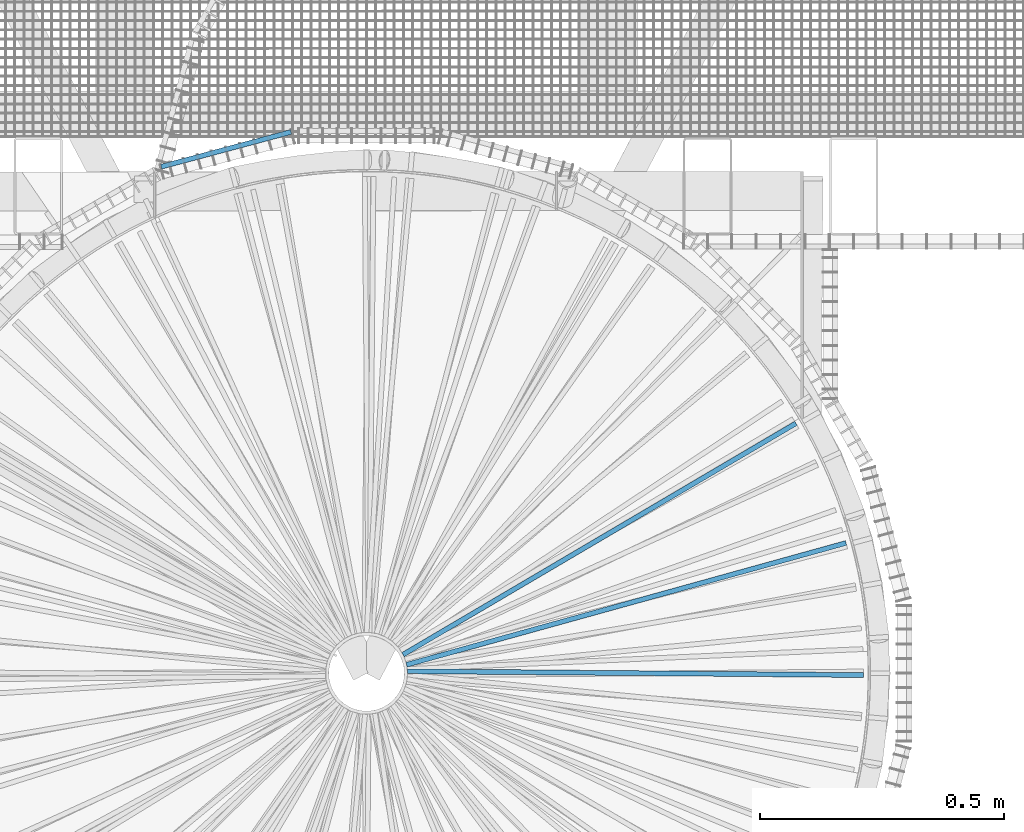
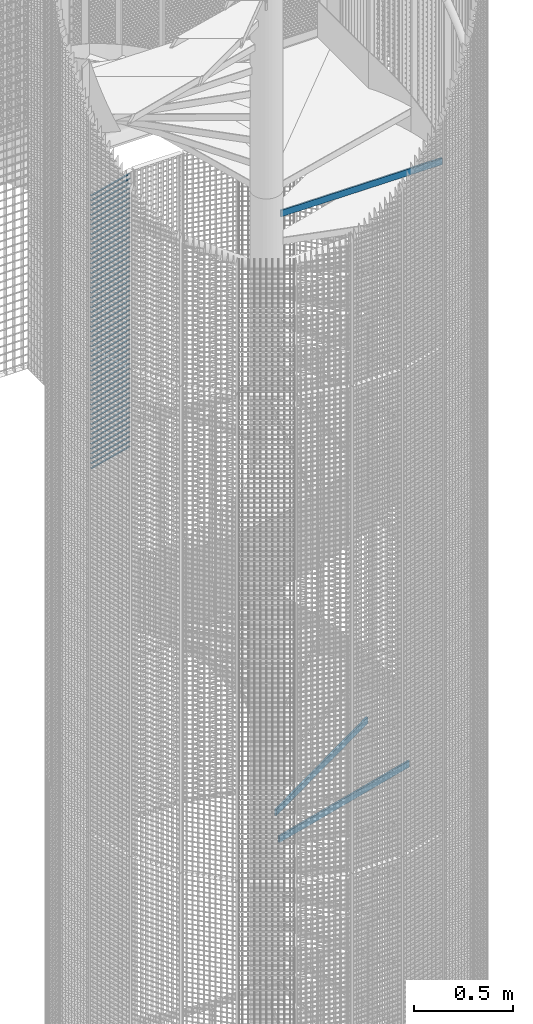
# One storey, part 303 of 1148: 60 beams, 2 elements without a shape of their own.
"""IFC2X3 building model written with IfcOpenShell, lengths in millimetres."""

from ifc_helpers import new_model, si_unit, frame, origin_with_axes, origin_2d_with_axis, place, context, subcontext, project, spatial, rectangle, extrude, material, type_object, element, aggregate, save


model = new_model("IFC2X3")

# Units and contexts
model_context = context("Model", 3, precision=1e-05, world=origin_with_axes())
body_context = subcontext(model_context, "Body", "Model", "MODEL_VIEW")
ifc_project = project(units=[si_unit("LENGTHUNIT", "METRE", prefix="MILLI"), si_unit("AREAUNIT", "SQUARE_METRE"), si_unit("VOLUMEUNIT", "CUBIC_METRE"), si_unit("MASSUNIT", "GRAM", prefix="KILO"), si_unit("TIMEUNIT", "SECOND"), si_unit("PLANEANGLEUNIT", "RADIAN"), si_unit("SOLIDANGLEUNIT", "STERADIAN"), si_unit("THERMODYNAMICTEMPERATUREUNIT", "DEGREE_CELSIUS"), si_unit("LUMINOUSINTENSITYUNIT", "LUMEN")], contexts=[model_context])

# Site, building, storey
site_placement = place(None, origin_with_axes())
site = spatial("IfcSite", under=ifc_project, at=site_placement, Name="Undefined", CompositionType="ELEMENT")
building_placement = place(site_placement, origin_with_axes())
building = spatial("IfcBuilding", under=site, at=building_placement, Name="Undefined", CompositionType="ELEMENT")
storey_placement = place(building_placement, origin_with_axes())
storey = spatial("IfcBuildingStorey", under=building, at=storey_placement, Name="Undefined", CompositionType="ELEMENT", Elevation=0.0)

# Assembly, beams
assembly_1_placement = place(storey_placement, origin_with_axes())
assembly_1 = element("IfcElementAssembly", 1, at=assembly_1_placement, inside=storey, Name="BORDURE", AssemblyPlace="NOTDEFINED", PredefinedType="NOTDEFINED")
ifc_material = material(Name="STEEL/S235JR")
beam_type_1 = type_object("IfcBeamType", Name="PL2*10", PredefinedType="NOTDEFINED")
beam_1_placement = place(assembly_1_placement, frame((-154.895926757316, 1111.25508286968, 5970.0), z_axis=(-0.258819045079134, 0.965925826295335, 0.0), x_axis=(-0.965925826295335, -0.258819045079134, 0.0)))
beam_1 = element("IfcBeam", 2, at=beam_1_placement, type_object=beam_type_1, material=ifc_material, Name="ENTRETOISE", context=body_context, shape_type="SweptSolid", body=[
    extrude(rectangle(XDim=2.0, YDim=10.0, at=origin_2d_with_axis()), frame((275.999999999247, 9.09494701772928e-13, 1.53210777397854e-14), z_axis=(-1.0, 0.0, 0.0), x_axis=(0.0, -1.0, 0.0)), (0.0, 0.0, 1.0), 276.0),
])
beam_2_placement = place(assembly_1_placement, frame((-154.895926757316, 1111.25508286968, 5940.0), z_axis=(-0.258819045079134, 0.965925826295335, 0.0), x_axis=(-0.965925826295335, -0.258819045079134, 0.0)))
beam_2 = element("IfcBeam", 3, at=beam_2_placement, type_object=beam_type_1, material=ifc_material, Name="ENTRETOISE", context=body_context, shape_type="SweptSolid", body=[
    extrude(rectangle(XDim=2.0, YDim=10.0, at=origin_2d_with_axis()), frame((275.999999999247, 9.09494701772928e-13, 1.53210777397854e-14), z_axis=(-1.0, 0.0, 0.0), x_axis=(0.0, -1.0, 0.0)), (0.0, 0.0, 1.0), 276.0),
])
beam_3_placement = place(assembly_1_placement, frame((-154.895926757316, 1111.25508286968, 5910.0), z_axis=(-0.258819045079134, 0.965925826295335, 0.0), x_axis=(-0.965925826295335, -0.258819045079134, 0.0)))
beam_3 = element("IfcBeam", 4, at=beam_3_placement, type_object=beam_type_1, material=ifc_material, Name="ENTRETOISE", context=body_context, shape_type="SweptSolid", body=[
    extrude(rectangle(XDim=2.0, YDim=10.0, at=origin_2d_with_axis()), frame((275.999999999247, 9.09494701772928e-13, 1.53210777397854e-14), z_axis=(-1.0, 0.0, 0.0), x_axis=(0.0, -1.0, 0.0)), (0.0, 0.0, 1.0), 276.0),
])
beam_4_placement = place(assembly_1_placement, frame((-154.895926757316, 1111.25508286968, 5880.0), z_axis=(-0.258819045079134, 0.965925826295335, 0.0), x_axis=(-0.965925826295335, -0.258819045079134, 0.0)))
beam_4 = element("IfcBeam", 5, at=beam_4_placement, type_object=beam_type_1, material=ifc_material, Name="ENTRETOISE", context=body_context, shape_type="SweptSolid", body=[
    extrude(rectangle(XDim=2.0, YDim=10.0, at=origin_2d_with_axis()), frame((275.999999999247, 9.09494701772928e-13, 1.53210777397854e-14), z_axis=(-1.0, 0.0, 0.0), x_axis=(0.0, -1.0, 0.0)), (0.0, 0.0, 1.0), 276.0),
])
beam_5_placement = place(assembly_1_placement, frame((-154.895926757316, 1111.25508286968, 5850.0), z_axis=(-0.258819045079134, 0.965925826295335, 0.0), x_axis=(-0.965925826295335, -0.258819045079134, 0.0)))
beam_5 = element("IfcBeam", 6, at=beam_5_placement, type_object=beam_type_1, material=ifc_material, Name="ENTRETOISE", context=body_context, shape_type="SweptSolid", body=[
    extrude(rectangle(XDim=2.0, YDim=10.0, at=origin_2d_with_axis()), frame((275.999999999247, 9.09494701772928e-13, 1.53210777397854e-14), z_axis=(-1.0, 0.0, 0.0), x_axis=(0.0, -1.0, 0.0)), (0.0, 0.0, 1.0), 276.0),
])
beam_6_placement = place(assembly_1_placement, frame((-154.895926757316, 1111.25508286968, 5820.0), z_axis=(-0.258819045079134, 0.965925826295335, 0.0), x_axis=(-0.965925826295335, -0.258819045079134, 0.0)))
beam_6 = element("IfcBeam", 7, at=beam_6_placement, type_object=beam_type_1, material=ifc_material, Name="ENTRETOISE", context=body_context, shape_type="SweptSolid", body=[
    extrude(rectangle(XDim=2.0, YDim=10.0, at=origin_2d_with_axis()), frame((275.999999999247, 9.09494701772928e-13, 1.53210777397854e-14), z_axis=(-1.0, 0.0, 0.0), x_axis=(0.0, -1.0, 0.0)), (0.0, 0.0, 1.0), 276.0),
])
beam_7_placement = place(assembly_1_placement, frame((-154.895926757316, 1111.25508286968, 5790.0), z_axis=(-0.258819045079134, 0.965925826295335, 0.0), x_axis=(-0.965925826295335, -0.258819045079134, 0.0)))
beam_7 = element("IfcBeam", 8, at=beam_7_placement, type_object=beam_type_1, material=ifc_material, Name="ENTRETOISE", context=body_context, shape_type="SweptSolid", body=[
    extrude(rectangle(XDim=2.0, YDim=10.0, at=origin_2d_with_axis()), frame((275.999999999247, 9.09494701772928e-13, 1.53210777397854e-14), z_axis=(-1.0, 0.0, 0.0), x_axis=(0.0, -1.0, 0.0)), (0.0, 0.0, 1.0), 276.0),
])
beam_8_placement = place(assembly_1_placement, frame((-154.895926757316, 1111.25508286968, 5760.0), z_axis=(-0.258819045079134, 0.965925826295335, 0.0), x_axis=(-0.965925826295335, -0.258819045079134, 0.0)))
beam_8 = element("IfcBeam", 9, at=beam_8_placement, type_object=beam_type_1, material=ifc_material, Name="ENTRETOISE", context=body_context, shape_type="SweptSolid", body=[
    extrude(rectangle(XDim=2.0, YDim=10.0, at=origin_2d_with_axis()), frame((275.999999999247, 9.09494701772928e-13, 1.53210777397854e-14), z_axis=(-1.0, 0.0, 0.0), x_axis=(0.0, -1.0, 0.0)), (0.0, 0.0, 1.0), 276.0),
])
beam_9_placement = place(assembly_1_placement, frame((-154.895926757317, 1111.25508286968, 5730.0), z_axis=(-0.258819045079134, 0.965925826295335, 0.0), x_axis=(-0.965925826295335, -0.258819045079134, 0.0)))
beam_9 = element("IfcBeam", 10, at=beam_9_placement, type_object=beam_type_1, material=ifc_material, Name="ENTRETOISE", context=body_context, shape_type="SweptSolid", body=[
    extrude(rectangle(XDim=2.0, YDim=10.0, at=origin_2d_with_axis()), frame((275.999999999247, 9.09494701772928e-13, 1.53210777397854e-14), z_axis=(-1.0, 0.0, 0.0), x_axis=(0.0, -1.0, 0.0)), (0.0, 0.0, 1.0), 276.0),
])
beam_10_placement = place(assembly_1_placement, frame((-154.895926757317, 1111.25508286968, 5700.0), z_axis=(-0.258819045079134, 0.965925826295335, 0.0), x_axis=(-0.965925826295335, -0.258819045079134, 0.0)))
beam_10 = element("IfcBeam", 11, at=beam_10_placement, type_object=beam_type_1, material=ifc_material, Name="ENTRETOISE", context=body_context, shape_type="SweptSolid", body=[
    extrude(rectangle(XDim=2.0, YDim=10.0, at=origin_2d_with_axis()), frame((275.999999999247, 9.09494701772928e-13, 1.53210777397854e-14), z_axis=(-1.0, 0.0, 0.0), x_axis=(0.0, -1.0, 0.0)), (0.0, 0.0, 1.0), 276.0),
])
beam_11_placement = place(assembly_1_placement, frame((-154.895926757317, 1111.25508286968, 5670.0), z_axis=(-0.258819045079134, 0.965925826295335, 0.0), x_axis=(-0.965925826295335, -0.258819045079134, 0.0)))
beam_11 = element("IfcBeam", 12, at=beam_11_placement, type_object=beam_type_1, material=ifc_material, Name="ENTRETOISE", context=body_context, shape_type="SweptSolid", body=[
    extrude(rectangle(XDim=2.0, YDim=10.0, at=origin_2d_with_axis()), frame((275.999999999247, 9.09494701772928e-13, 1.53210777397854e-14), z_axis=(-1.0, 0.0, 0.0), x_axis=(0.0, -1.0, 0.0)), (0.0, 0.0, 1.0), 276.0),
])
beam_12_placement = place(assembly_1_placement, frame((-154.895926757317, 1111.25508286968, 5640.0), z_axis=(-0.258819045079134, 0.965925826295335, 0.0), x_axis=(-0.965925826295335, -0.258819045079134, 0.0)))
beam_12 = element("IfcBeam", 13, at=beam_12_placement, type_object=beam_type_1, material=ifc_material, Name="ENTRETOISE", context=body_context, shape_type="SweptSolid", body=[
    extrude(rectangle(XDim=2.0, YDim=10.0, at=origin_2d_with_axis()), frame((275.999999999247, 9.09494701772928e-13, 1.53210777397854e-14), z_axis=(-1.0, 0.0, 0.0), x_axis=(0.0, -1.0, 0.0)), (0.0, 0.0, 1.0), 276.0),
])
beam_13_placement = place(assembly_1_placement, frame((-154.895926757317, 1111.25508286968, 5610.0), z_axis=(-0.258819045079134, 0.965925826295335, 0.0), x_axis=(-0.965925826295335, -0.258819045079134, 0.0)))
beam_13 = element("IfcBeam", 14, at=beam_13_placement, type_object=beam_type_1, material=ifc_material, Name="ENTRETOISE", context=body_context, shape_type="SweptSolid", body=[
    extrude(rectangle(XDim=2.0, YDim=10.0, at=origin_2d_with_axis()), frame((275.999999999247, 9.09494701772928e-13, 1.53210777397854e-14), z_axis=(-1.0, 0.0, 0.0), x_axis=(0.0, -1.0, 0.0)), (0.0, 0.0, 1.0), 276.0),
])
beam_14_placement = place(assembly_1_placement, frame((-154.895926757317, 1111.25508286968, 5580.0), z_axis=(-0.258819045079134, 0.965925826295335, 0.0), x_axis=(-0.965925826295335, -0.258819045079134, 0.0)))
beam_14 = element("IfcBeam", 15, at=beam_14_placement, type_object=beam_type_1, material=ifc_material, Name="ENTRETOISE", context=body_context, shape_type="SweptSolid", body=[
    extrude(rectangle(XDim=2.0, YDim=10.0, at=origin_2d_with_axis()), frame((275.999999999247, 9.09494701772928e-13, 1.53210777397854e-14), z_axis=(-1.0, 0.0, 0.0), x_axis=(0.0, -1.0, 0.0)), (0.0, 0.0, 1.0), 276.0),
])
beam_15_placement = place(assembly_1_placement, frame((-154.895926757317, 1111.25508286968, 5550.0), z_axis=(-0.258819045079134, 0.965925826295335, 0.0), x_axis=(-0.965925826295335, -0.258819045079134, 0.0)))
beam_15 = element("IfcBeam", 16, at=beam_15_placement, type_object=beam_type_1, material=ifc_material, Name="ENTRETOISE", context=body_context, shape_type="SweptSolid", body=[
    extrude(rectangle(XDim=2.0, YDim=10.0, at=origin_2d_with_axis()), frame((275.999999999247, 9.09494701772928e-13, 1.53210777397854e-14), z_axis=(-1.0, 0.0, 0.0), x_axis=(0.0, -1.0, 0.0)), (0.0, 0.0, 1.0), 276.0),
])
beam_16_placement = place(assembly_1_placement, frame((-154.895926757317, 1111.25508286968, 5520.0), z_axis=(-0.258819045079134, 0.965925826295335, 0.0), x_axis=(-0.965925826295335, -0.258819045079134, 0.0)))
beam_16 = element("IfcBeam", 17, at=beam_16_placement, type_object=beam_type_1, material=ifc_material, Name="ENTRETOISE", context=body_context, shape_type="SweptSolid", body=[
    extrude(rectangle(XDim=2.0, YDim=10.0, at=origin_2d_with_axis()), frame((275.999999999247, 9.09494701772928e-13, 1.53210777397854e-14), z_axis=(-1.0, 0.0, 0.0), x_axis=(0.0, -1.0, 0.0)), (0.0, 0.0, 1.0), 276.0),
])
beam_17_placement = place(assembly_1_placement, frame((-154.895926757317, 1111.25508286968, 5490.0), z_axis=(-0.258819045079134, 0.965925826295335, 0.0), x_axis=(-0.965925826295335, -0.258819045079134, 0.0)))
beam_17 = element("IfcBeam", 18, at=beam_17_placement, type_object=beam_type_1, material=ifc_material, Name="ENTRETOISE", context=body_context, shape_type="SweptSolid", body=[
    extrude(rectangle(XDim=2.0, YDim=10.0, at=origin_2d_with_axis()), frame((275.999999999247, 9.09494701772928e-13, 1.53210777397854e-14), z_axis=(-1.0, 0.0, 0.0), x_axis=(0.0, -1.0, 0.0)), (0.0, 0.0, 1.0), 276.0),
])
beam_18_placement = place(assembly_1_placement, frame((-154.895926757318, 1111.25508286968, 5460.0), z_axis=(-0.258819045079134, 0.965925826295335, 0.0), x_axis=(-0.965925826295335, -0.258819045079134, 0.0)))
beam_18 = element("IfcBeam", 19, at=beam_18_placement, type_object=beam_type_1, material=ifc_material, Name="ENTRETOISE", context=body_context, shape_type="SweptSolid", body=[
    extrude(rectangle(XDim=2.0, YDim=10.0, at=origin_2d_with_axis()), frame((275.999999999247, 9.09494701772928e-13, 1.53210777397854e-14), z_axis=(-1.0, 0.0, 0.0), x_axis=(0.0, -1.0, 0.0)), (0.0, 0.0, 1.0), 276.0),
])
beam_19_placement = place(assembly_1_placement, frame((-154.895926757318, 1111.25508286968, 5430.0), z_axis=(-0.258819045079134, 0.965925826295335, 0.0), x_axis=(-0.965925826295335, -0.258819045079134, 0.0)))
beam_19 = element("IfcBeam", 20, at=beam_19_placement, type_object=beam_type_1, material=ifc_material, Name="ENTRETOISE", context=body_context, shape_type="SweptSolid", body=[
    extrude(rectangle(XDim=2.0, YDim=10.0, at=origin_2d_with_axis()), frame((275.999999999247, 9.09494701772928e-13, 1.53210777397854e-14), z_axis=(-1.0, 0.0, 0.0), x_axis=(0.0, -1.0, 0.0)), (0.0, 0.0, 1.0), 276.0),
])
beam_20_placement = place(assembly_1_placement, frame((-154.895926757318, 1111.25508286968, 5400.0), z_axis=(-0.258819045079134, 0.965925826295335, 0.0), x_axis=(-0.965925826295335, -0.258819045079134, 0.0)))
beam_20 = element("IfcBeam", 21, at=beam_20_placement, type_object=beam_type_1, material=ifc_material, Name="ENTRETOISE", context=body_context, shape_type="SweptSolid", body=[
    extrude(rectangle(XDim=2.0, YDim=10.0, at=origin_2d_with_axis()), frame((275.999999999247, 9.09494701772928e-13, 1.53210777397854e-14), z_axis=(-1.0, 0.0, 0.0), x_axis=(0.0, -1.0, 0.0)), (0.0, 0.0, 1.0), 276.0),
])
beam_21_placement = place(assembly_1_placement, frame((-154.895926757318, 1111.25508286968, 5370.0), z_axis=(-0.258819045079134, 0.965925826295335, 0.0), x_axis=(-0.965925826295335, -0.258819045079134, 0.0)))
beam_21 = element("IfcBeam", 22, at=beam_21_placement, type_object=beam_type_1, material=ifc_material, Name="ENTRETOISE", context=body_context, shape_type="SweptSolid", body=[
    extrude(rectangle(XDim=2.0, YDim=10.0, at=origin_2d_with_axis()), frame((275.999999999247, 9.09494701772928e-13, 1.53210777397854e-14), z_axis=(-1.0, 0.0, 0.0), x_axis=(0.0, -1.0, 0.0)), (0.0, 0.0, 1.0), 276.0),
])
beam_22_placement = place(assembly_1_placement, frame((-154.895926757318, 1111.25508286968, 5340.0), z_axis=(-0.258819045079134, 0.965925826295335, 0.0), x_axis=(-0.965925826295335, -0.258819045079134, 0.0)))
beam_22 = element("IfcBeam", 23, at=beam_22_placement, type_object=beam_type_1, material=ifc_material, Name="ENTRETOISE", context=body_context, shape_type="SweptSolid", body=[
    extrude(rectangle(XDim=2.0, YDim=10.0, at=origin_2d_with_axis()), frame((275.999999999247, 9.09494701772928e-13, 1.53210777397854e-14), z_axis=(-1.0, 0.0, 0.0), x_axis=(0.0, -1.0, 0.0)), (0.0, 0.0, 1.0), 276.0),
])
beam_23_placement = place(assembly_1_placement, frame((-154.895926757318, 1111.25508286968, 5310.0), z_axis=(-0.258819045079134, 0.965925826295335, 0.0), x_axis=(-0.965925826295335, -0.258819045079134, 0.0)))
beam_23 = element("IfcBeam", 24, at=beam_23_placement, type_object=beam_type_1, material=ifc_material, Name="ENTRETOISE", context=body_context, shape_type="SweptSolid", body=[
    extrude(rectangle(XDim=2.0, YDim=10.0, at=origin_2d_with_axis()), frame((275.999999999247, 9.09494701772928e-13, 1.53210777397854e-14), z_axis=(-1.0, 0.0, 0.0), x_axis=(0.0, -1.0, 0.0)), (0.0, 0.0, 1.0), 276.0),
])
beam_24_placement = place(assembly_1_placement, frame((-154.895926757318, 1111.25508286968, 5280.0), z_axis=(-0.258819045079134, 0.965925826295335, 0.0), x_axis=(-0.965925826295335, -0.258819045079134, 0.0)))
beam_24 = element("IfcBeam", 25, at=beam_24_placement, type_object=beam_type_1, material=ifc_material, Name="ENTRETOISE", context=body_context, shape_type="SweptSolid", body=[
    extrude(rectangle(XDim=2.0, YDim=10.0, at=origin_2d_with_axis()), frame((275.999999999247, 9.09494701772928e-13, 1.53210777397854e-14), z_axis=(-1.0, 0.0, 0.0), x_axis=(0.0, -1.0, 0.0)), (0.0, 0.0, 1.0), 276.0),
])
beam_25_placement = place(assembly_1_placement, frame((-154.895926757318, 1111.25508286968, 5250.0), z_axis=(-0.258819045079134, 0.965925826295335, 0.0), x_axis=(-0.965925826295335, -0.258819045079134, 0.0)))
beam_25 = element("IfcBeam", 26, at=beam_25_placement, type_object=beam_type_1, material=ifc_material, Name="ENTRETOISE", context=body_context, shape_type="SweptSolid", body=[
    extrude(rectangle(XDim=2.0, YDim=10.0, at=origin_2d_with_axis()), frame((275.999999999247, 9.09494701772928e-13, 1.53210777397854e-14), z_axis=(-1.0, 0.0, 0.0), x_axis=(0.0, -1.0, 0.0)), (0.0, 0.0, 1.0), 276.0),
])
beam_26_placement = place(assembly_1_placement, frame((-154.895926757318, 1111.25508286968, 5220.0), z_axis=(-0.258819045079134, 0.965925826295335, 0.0), x_axis=(-0.965925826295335, -0.258819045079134, 0.0)))
beam_26 = element("IfcBeam", 27, at=beam_26_placement, type_object=beam_type_1, material=ifc_material, Name="ENTRETOISE", context=body_context, shape_type="SweptSolid", body=[
    extrude(rectangle(XDim=2.0, YDim=10.0, at=origin_2d_with_axis()), frame((275.999999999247, 9.09494701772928e-13, 1.53210777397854e-14), z_axis=(-1.0, 0.0, 0.0), x_axis=(0.0, -1.0, 0.0)), (0.0, 0.0, 1.0), 276.0),
])
beam_27_placement = place(assembly_1_placement, frame((-154.895926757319, 1111.25508286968, 5190.0), z_axis=(-0.258819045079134, 0.965925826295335, 0.0), x_axis=(-0.965925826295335, -0.258819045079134, 0.0)))
beam_27 = element("IfcBeam", 28, at=beam_27_placement, type_object=beam_type_1, material=ifc_material, Name="ENTRETOISE", context=body_context, shape_type="SweptSolid", body=[
    extrude(rectangle(XDim=2.0, YDim=10.0, at=origin_2d_with_axis()), frame((275.999999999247, 9.09494701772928e-13, 1.53210777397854e-14), z_axis=(-1.0, 0.0, 0.0), x_axis=(0.0, -1.0, 0.0)), (0.0, 0.0, 1.0), 276.0),
])
beam_28_placement = place(assembly_1_placement, frame((-154.895926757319, 1111.25508286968, 5160.0), z_axis=(-0.258819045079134, 0.965925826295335, 0.0), x_axis=(-0.965925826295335, -0.258819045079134, 0.0)))
beam_28 = element("IfcBeam", 29, at=beam_28_placement, type_object=beam_type_1, material=ifc_material, Name="ENTRETOISE", context=body_context, shape_type="SweptSolid", body=[
    extrude(rectangle(XDim=2.0, YDim=10.0, at=origin_2d_with_axis()), frame((275.999999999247, 9.09494701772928e-13, 1.53210777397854e-14), z_axis=(-1.0, 0.0, 0.0), x_axis=(0.0, -1.0, 0.0)), (0.0, 0.0, 1.0), 276.0),
])
beam_29_placement = place(assembly_1_placement, frame((-154.895926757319, 1111.25508286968, 5130.0), z_axis=(-0.258819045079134, 0.965925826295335, 0.0), x_axis=(-0.965925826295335, -0.258819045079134, 0.0)))
beam_29 = element("IfcBeam", 30, at=beam_29_placement, type_object=beam_type_1, material=ifc_material, Name="ENTRETOISE", context=body_context, shape_type="SweptSolid", body=[
    extrude(rectangle(XDim=2.0, YDim=10.0, at=origin_2d_with_axis()), frame((275.999999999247, 9.09494701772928e-13, 1.53210777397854e-14), z_axis=(-1.0, 0.0, 0.0), x_axis=(0.0, -1.0, 0.0)), (0.0, 0.0, 1.0), 276.0),
])
beam_30_placement = place(assembly_1_placement, frame((-154.895926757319, 1111.25508286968, 5100.0), z_axis=(-0.258819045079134, 0.965925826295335, 0.0), x_axis=(-0.965925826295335, -0.258819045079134, 0.0)))
beam_30 = element("IfcBeam", 31, at=beam_30_placement, type_object=beam_type_1, material=ifc_material, Name="ENTRETOISE", context=body_context, shape_type="SweptSolid", body=[
    extrude(rectangle(XDim=2.0, YDim=10.0, at=origin_2d_with_axis()), frame((275.999999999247, 9.09494701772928e-13, 1.53210777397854e-14), z_axis=(-1.0, 0.0, 0.0), x_axis=(0.0, -1.0, 0.0)), (0.0, 0.0, 1.0), 276.0),
])
beam_31_placement = place(assembly_1_placement, frame((-154.895926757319, 1111.25508286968, 5070.0), z_axis=(-0.258819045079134, 0.965925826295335, 0.0), x_axis=(-0.965925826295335, -0.258819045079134, 0.0)))
beam_31 = element("IfcBeam", 32, at=beam_31_placement, type_object=beam_type_1, material=ifc_material, Name="ENTRETOISE", context=body_context, shape_type="SweptSolid", body=[
    extrude(rectangle(XDim=2.0, YDim=10.0, at=origin_2d_with_axis()), frame((275.999999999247, 9.09494701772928e-13, 1.53210777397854e-14), z_axis=(-1.0, 0.0, 0.0), x_axis=(0.0, -1.0, 0.0)), (0.0, 0.0, 1.0), 276.0),
])
beam_32_placement = place(assembly_1_placement, frame((-154.895926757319, 1111.25508286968, 5040.0), z_axis=(-0.258819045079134, 0.965925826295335, 0.0), x_axis=(-0.965925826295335, -0.258819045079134, 0.0)))
beam_32 = element("IfcBeam", 33, at=beam_32_placement, type_object=beam_type_1, material=ifc_material, Name="ENTRETOISE", context=body_context, shape_type="SweptSolid", body=[
    extrude(rectangle(XDim=2.0, YDim=10.0, at=origin_2d_with_axis()), frame((275.999999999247, 9.09494701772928e-13, 1.53210777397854e-14), z_axis=(-1.0, 0.0, 0.0), x_axis=(0.0, -1.0, 0.0)), (0.0, 0.0, 1.0), 276.0),
])
beam_33_placement = place(assembly_1_placement, frame((-154.895926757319, 1111.25508286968, 5010.0), z_axis=(-0.258819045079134, 0.965925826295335, 0.0), x_axis=(-0.965925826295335, -0.258819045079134, 0.0)))
beam_33 = element("IfcBeam", 34, at=beam_33_placement, type_object=beam_type_1, material=ifc_material, Name="ENTRETOISE", context=body_context, shape_type="SweptSolid", body=[
    extrude(rectangle(XDim=2.0, YDim=10.0, at=origin_2d_with_axis()), frame((275.999999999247, 9.09494701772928e-13, 1.53210777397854e-14), z_axis=(-1.0, 0.0, 0.0), x_axis=(0.0, -1.0, 0.0)), (0.0, 0.0, 1.0), 276.0),
])
beam_34_placement = place(assembly_1_placement, frame((-154.895926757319, 1111.25508286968, 4980.0), z_axis=(-0.258819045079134, 0.965925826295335, 0.0), x_axis=(-0.965925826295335, -0.258819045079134, 0.0)))
beam_34 = element("IfcBeam", 35, at=beam_34_placement, type_object=beam_type_1, material=ifc_material, Name="ENTRETOISE", context=body_context, shape_type="SweptSolid", body=[
    extrude(rectangle(XDim=2.0, YDim=10.0, at=origin_2d_with_axis()), frame((275.999999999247, 9.09494701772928e-13, 1.53210777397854e-14), z_axis=(-1.0, 0.0, 0.0), x_axis=(0.0, -1.0, 0.0)), (0.0, 0.0, 1.0), 276.0),
])
beam_35_placement = place(assembly_1_placement, frame((-154.895926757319, 1111.25508286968, 4950.0), z_axis=(-0.258819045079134, 0.965925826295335, 0.0), x_axis=(-0.965925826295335, -0.258819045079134, 0.0)))
beam_35 = element("IfcBeam", 36, at=beam_35_placement, type_object=beam_type_1, material=ifc_material, Name="ENTRETOISE", context=body_context, shape_type="SweptSolid", body=[
    extrude(rectangle(XDim=2.0, YDim=10.0, at=origin_2d_with_axis()), frame((275.999999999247, 9.09494701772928e-13, 1.53210777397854e-14), z_axis=(-1.0, 0.0, 0.0), x_axis=(0.0, -1.0, 0.0)), (0.0, 0.0, 1.0), 276.0),
])
beam_36_placement = place(assembly_1_placement, frame((-154.89592675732, 1111.25508286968, 4920.0), z_axis=(-0.258819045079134, 0.965925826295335, 0.0), x_axis=(-0.965925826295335, -0.258819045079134, 0.0)))
beam_36 = element("IfcBeam", 37, at=beam_36_placement, type_object=beam_type_1, material=ifc_material, Name="ENTRETOISE", context=body_context, shape_type="SweptSolid", body=[
    extrude(rectangle(XDim=2.0, YDim=10.0, at=origin_2d_with_axis()), frame((275.999999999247, 9.09494701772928e-13, 1.53210777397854e-14), z_axis=(-1.0, 0.0, 0.0), x_axis=(0.0, -1.0, 0.0)), (0.0, 0.0, 1.0), 276.0),
])
beam_37_placement = place(assembly_1_placement, frame((-154.89592675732, 1111.25508286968, 4890.0), z_axis=(-0.258819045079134, 0.965925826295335, 0.0), x_axis=(-0.965925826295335, -0.258819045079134, 0.0)))
beam_37 = element("IfcBeam", 38, at=beam_37_placement, type_object=beam_type_1, material=ifc_material, Name="ENTRETOISE", context=body_context, shape_type="SweptSolid", body=[
    extrude(rectangle(XDim=2.0, YDim=10.0, at=origin_2d_with_axis()), frame((275.999999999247, 9.09494701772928e-13, 1.53210777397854e-14), z_axis=(-1.0, 0.0, 0.0), x_axis=(0.0, -1.0, 0.0)), (0.0, 0.0, 1.0), 276.0),
])
beam_38_placement = place(assembly_1_placement, frame((-154.89592675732, 1111.25508286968, 4860.0), z_axis=(-0.258819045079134, 0.965925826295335, 0.0), x_axis=(-0.965925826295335, -0.258819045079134, 0.0)))
beam_38 = element("IfcBeam", 39, at=beam_38_placement, type_object=beam_type_1, material=ifc_material, Name="ENTRETOISE", context=body_context, shape_type="SweptSolid", body=[
    extrude(rectangle(XDim=2.0, YDim=10.0, at=origin_2d_with_axis()), frame((275.999999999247, 9.09494701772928e-13, 1.53210777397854e-14), z_axis=(-1.0, 0.0, 0.0), x_axis=(0.0, -1.0, 0.0)), (0.0, 0.0, 1.0), 276.0),
])
beam_39_placement = place(assembly_1_placement, frame((-154.89592675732, 1111.25508286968, 4830.0), z_axis=(-0.258819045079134, 0.965925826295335, 0.0), x_axis=(-0.965925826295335, -0.258819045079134, 0.0)))
beam_39 = element("IfcBeam", 40, at=beam_39_placement, type_object=beam_type_1, material=ifc_material, Name="ENTRETOISE", context=body_context, shape_type="SweptSolid", body=[
    extrude(rectangle(XDim=2.0, YDim=10.0, at=origin_2d_with_axis()), frame((275.999999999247, 9.09494701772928e-13, 1.53210777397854e-14), z_axis=(-1.0, 0.0, 0.0), x_axis=(0.0, -1.0, 0.0)), (0.0, 0.0, 1.0), 276.0),
])
beam_40_placement = place(assembly_1_placement, frame((-154.89592675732, 1111.25508286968, 4800.0), z_axis=(-0.258819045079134, 0.965925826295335, 0.0), x_axis=(-0.965925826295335, -0.258819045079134, 0.0)))
beam_40 = element("IfcBeam", 41, at=beam_40_placement, type_object=beam_type_1, material=ifc_material, Name="ENTRETOISE", context=body_context, shape_type="SweptSolid", body=[
    extrude(rectangle(XDim=2.0, YDim=10.0, at=origin_2d_with_axis()), frame((275.999999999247, 9.09494701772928e-13, 1.53210777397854e-14), z_axis=(-1.0, 0.0, 0.0), x_axis=(0.0, -1.0, 0.0)), (0.0, 0.0, 1.0), 276.0),
])
beam_41_placement = place(assembly_1_placement, frame((-154.89592675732, 1111.25508286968, 4770.0), z_axis=(-0.258819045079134, 0.965925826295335, 0.0), x_axis=(-0.965925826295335, -0.258819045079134, 0.0)))
beam_41 = element("IfcBeam", 42, at=beam_41_placement, type_object=beam_type_1, material=ifc_material, Name="ENTRETOISE", context=body_context, shape_type="SweptSolid", body=[
    extrude(rectangle(XDim=2.0, YDim=10.0, at=origin_2d_with_axis()), frame((275.999999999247, 9.09494701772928e-13, 1.53210777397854e-14), z_axis=(-1.0, 0.0, 0.0), x_axis=(0.0, -1.0, 0.0)), (0.0, 0.0, 1.0), 276.0),
])
beam_42_placement = place(assembly_1_placement, frame((-154.89592675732, 1111.25508286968, 4740.0), z_axis=(-0.258819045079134, 0.965925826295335, 0.0), x_axis=(-0.965925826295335, -0.258819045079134, 0.0)))
beam_42 = element("IfcBeam", 43, at=beam_42_placement, type_object=beam_type_1, material=ifc_material, Name="ENTRETOISE", context=body_context, shape_type="SweptSolid", body=[
    extrude(rectangle(XDim=2.0, YDim=10.0, at=origin_2d_with_axis()), frame((275.999999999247, 9.09494701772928e-13, 1.53210777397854e-14), z_axis=(-1.0, 0.0, 0.0), x_axis=(0.0, -1.0, 0.0)), (0.0, 0.0, 1.0), 276.0),
])
beam_43_placement = place(assembly_1_placement, frame((-154.89592675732, 1111.25508286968, 4710.0), z_axis=(-0.258819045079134, 0.965925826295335, 0.0), x_axis=(-0.965925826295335, -0.258819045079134, 0.0)))
beam_43 = element("IfcBeam", 44, at=beam_43_placement, type_object=beam_type_1, material=ifc_material, Name="ENTRETOISE", context=body_context, shape_type="SweptSolid", body=[
    extrude(rectangle(XDim=2.0, YDim=10.0, at=origin_2d_with_axis()), frame((275.999999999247, 9.09494701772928e-13, 1.53210777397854e-14), z_axis=(-1.0, 0.0, 0.0), x_axis=(0.0, -1.0, 0.0)), (0.0, 0.0, 1.0), 276.0),
])
beam_44_placement = place(assembly_1_placement, frame((-154.89592675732, 1111.25508286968, 4680.0), z_axis=(-0.258819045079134, 0.965925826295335, 0.0), x_axis=(-0.965925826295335, -0.258819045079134, 0.0)))
beam_44 = element("IfcBeam", 45, at=beam_44_placement, type_object=beam_type_1, material=ifc_material, Name="ENTRETOISE", context=body_context, shape_type="SweptSolid", body=[
    extrude(rectangle(XDim=2.0, YDim=10.0, at=origin_2d_with_axis()), frame((275.999999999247, 9.09494701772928e-13, 1.53210777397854e-14), z_axis=(-1.0, 0.0, 0.0), x_axis=(0.0, -1.0, 0.0)), (0.0, 0.0, 1.0), 276.0),
])
beam_45_placement = place(assembly_1_placement, frame((-154.895926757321, 1111.25508286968, 4650.0), z_axis=(-0.258819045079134, 0.965925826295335, 0.0), x_axis=(-0.965925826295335, -0.258819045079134, 0.0)))
beam_45 = element("IfcBeam", 46, at=beam_45_placement, type_object=beam_type_1, material=ifc_material, Name="ENTRETOISE", context=body_context, shape_type="SweptSolid", body=[
    extrude(rectangle(XDim=2.0, YDim=10.0, at=origin_2d_with_axis()), frame((275.999999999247, 9.09494701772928e-13, 1.53210777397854e-14), z_axis=(-1.0, 0.0, 0.0), x_axis=(0.0, -1.0, 0.0)), (0.0, 0.0, 1.0), 276.0),
])
beam_46_placement = place(assembly_1_placement, frame((-154.895926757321, 1111.25508286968, 4620.0), z_axis=(-0.258819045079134, 0.965925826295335, 0.0), x_axis=(-0.965925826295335, -0.258819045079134, 0.0)))
beam_46 = element("IfcBeam", 47, at=beam_46_placement, type_object=beam_type_1, material=ifc_material, Name="ENTRETOISE", context=body_context, shape_type="SweptSolid", body=[
    extrude(rectangle(XDim=2.0, YDim=10.0, at=origin_2d_with_axis()), frame((275.999999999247, 9.09494701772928e-13, 1.53210777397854e-14), z_axis=(-1.0, 0.0, 0.0), x_axis=(0.0, -1.0, 0.0)), (0.0, 0.0, 1.0), 276.0),
])
beam_47_placement = place(assembly_1_placement, frame((-154.895926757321, 1111.25508286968, 4590.0), z_axis=(-0.258819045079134, 0.965925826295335, 0.0), x_axis=(-0.965925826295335, -0.258819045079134, 0.0)))
beam_47 = element("IfcBeam", 48, at=beam_47_placement, type_object=beam_type_1, material=ifc_material, Name="ENTRETOISE", context=body_context, shape_type="SweptSolid", body=[
    extrude(rectangle(XDim=2.0, YDim=10.0, at=origin_2d_with_axis()), frame((275.999999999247, 9.09494701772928e-13, 1.53210777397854e-14), z_axis=(-1.0, 0.0, 0.0), x_axis=(0.0, -1.0, 0.0)), (0.0, 0.0, 1.0), 276.0),
])
beam_48_placement = place(assembly_1_placement, frame((-154.895926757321, 1111.25508286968, 4560.0), z_axis=(-0.258819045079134, 0.965925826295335, 0.0), x_axis=(-0.965925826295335, -0.258819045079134, 0.0)))
beam_48 = element("IfcBeam", 49, at=beam_48_placement, type_object=beam_type_1, material=ifc_material, Name="ENTRETOISE", context=body_context, shape_type="SweptSolid", body=[
    extrude(rectangle(XDim=2.0, YDim=10.0, at=origin_2d_with_axis()), frame((275.999999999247, 9.09494701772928e-13, 1.53210777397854e-14), z_axis=(-1.0, 0.0, 0.0), x_axis=(0.0, -1.0, 0.0)), (0.0, 0.0, 1.0), 276.0),
])
beam_49_placement = place(assembly_1_placement, frame((-154.895926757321, 1111.25508286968, 4530.0), z_axis=(-0.258819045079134, 0.965925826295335, 0.0), x_axis=(-0.965925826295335, -0.258819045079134, 0.0)))
beam_49 = element("IfcBeam", 50, at=beam_49_placement, type_object=beam_type_1, material=ifc_material, Name="ENTRETOISE", context=body_context, shape_type="SweptSolid", body=[
    extrude(rectangle(XDim=2.0, YDim=10.0, at=origin_2d_with_axis()), frame((275.999999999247, 9.09494701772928e-13, 1.53210777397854e-14), z_axis=(-1.0, 0.0, 0.0), x_axis=(0.0, -1.0, 0.0)), (0.0, 0.0, 1.0), 276.0),
])
beam_50_placement = place(assembly_1_placement, frame((-154.895926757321, 1111.25508286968, 4500.0), z_axis=(-0.258819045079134, 0.965925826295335, 0.0), x_axis=(-0.965925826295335, -0.258819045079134, 0.0)))
beam_50 = element("IfcBeam", 51, at=beam_50_placement, type_object=beam_type_1, material=ifc_material, Name="ENTRETOISE", context=body_context, shape_type="SweptSolid", body=[
    extrude(rectangle(XDim=2.0, YDim=10.0, at=origin_2d_with_axis()), frame((275.999999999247, 9.09494701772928e-13, 1.53210777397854e-14), z_axis=(-1.0, 0.0, 0.0), x_axis=(0.0, -1.0, 0.0)), (0.0, 0.0, 1.0), 276.0),
])
beam_51_placement = place(assembly_1_placement, frame((-154.895926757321, 1111.25508286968, 4470.0), z_axis=(-0.258819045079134, 0.965925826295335, 0.0), x_axis=(-0.965925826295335, -0.258819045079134, 0.0)))
beam_51 = element("IfcBeam", 52, at=beam_51_placement, type_object=beam_type_1, material=ifc_material, Name="ENTRETOISE", context=body_context, shape_type="SweptSolid", body=[
    extrude(rectangle(XDim=2.0, YDim=10.0, at=origin_2d_with_axis()), frame((275.999999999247, 9.09494701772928e-13, 1.53210777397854e-14), z_axis=(-1.0, 0.0, 0.0), x_axis=(0.0, -1.0, 0.0)), (0.0, 0.0, 1.0), 276.0),
])
beam_52_placement = place(assembly_1_placement, frame((-154.895926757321, 1111.25508286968, 4440.0), z_axis=(-0.258819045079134, 0.965925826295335, 0.0), x_axis=(-0.965925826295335, -0.258819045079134, 0.0)))
beam_52 = element("IfcBeam", 53, at=beam_52_placement, type_object=beam_type_1, material=ifc_material, Name="ENTRETOISE", context=body_context, shape_type="SweptSolid", body=[
    extrude(rectangle(XDim=2.0, YDim=10.0, at=origin_2d_with_axis()), frame((275.999999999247, 9.09494701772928e-13, 1.53210777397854e-14), z_axis=(-1.0, 0.0, 0.0), x_axis=(0.0, -1.0, 0.0)), (0.0, 0.0, 1.0), 276.0),
])
beam_53_placement = place(assembly_1_placement, frame((-154.895926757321, 1111.25508286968, 4410.0), z_axis=(-0.258819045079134, 0.965925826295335, 0.0), x_axis=(-0.965925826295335, -0.258819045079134, 0.0)))
beam_53 = element("IfcBeam", 54, at=beam_53_placement, type_object=beam_type_1, material=ifc_material, Name="ENTRETOISE", context=body_context, shape_type="SweptSolid", body=[
    extrude(rectangle(XDim=2.0, YDim=10.0, at=origin_2d_with_axis()), frame((275.999999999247, 9.09494701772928e-13, 1.53210777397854e-14), z_axis=(-1.0, 0.0, 0.0), x_axis=(0.0, -1.0, 0.0)), (0.0, 0.0, 1.0), 276.0),
])
beam_54_placement = place(assembly_1_placement, frame((-154.895926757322, 1111.25508286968, 4380.0), z_axis=(-0.258819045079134, 0.965925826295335, 0.0), x_axis=(-0.965925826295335, -0.258819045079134, 0.0)))
beam_54 = element("IfcBeam", 55, at=beam_54_placement, type_object=beam_type_1, material=ifc_material, Name="ENTRETOISE", context=body_context, shape_type="SweptSolid", body=[
    extrude(rectangle(XDim=2.0, YDim=10.0, at=origin_2d_with_axis()), frame((275.999999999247, 9.09494701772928e-13, 1.53210777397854e-14), z_axis=(-1.0, 0.0, 0.0), x_axis=(0.0, -1.0, 0.0)), (0.0, 0.0, 1.0), 276.0),
])
beam_55_placement = place(assembly_1_placement, frame((-154.895926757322, 1111.25508286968, 4350.0), z_axis=(-0.258819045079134, 0.965925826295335, 0.0), x_axis=(-0.965925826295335, -0.258819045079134, 0.0)))
beam_55 = element("IfcBeam", 56, at=beam_55_placement, type_object=beam_type_1, material=ifc_material, Name="ENTRETOISE", context=body_context, shape_type="SweptSolid", body=[
    extrude(rectangle(XDim=2.0, YDim=10.0, at=origin_2d_with_axis()), frame((275.999999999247, 9.09494701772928e-13, 1.53210777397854e-14), z_axis=(-1.0, 0.0, 0.0), x_axis=(0.0, -1.0, 0.0)), (0.0, 0.0, 1.0), 276.0),
])
beam_56_placement = place(assembly_1_placement, frame((-154.895926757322, 1111.25508286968, 4320.0), z_axis=(-0.258819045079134, 0.965925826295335, 0.0), x_axis=(-0.965925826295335, -0.258819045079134, 0.0)))
beam_56 = element("IfcBeam", 57, at=beam_56_placement, type_object=beam_type_1, material=ifc_material, Name="ENTRETOISE", context=body_context, shape_type="SweptSolid", body=[
    extrude(rectangle(XDim=2.0, YDim=10.0, at=origin_2d_with_axis()), frame((275.999999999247, 9.09494701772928e-13, 1.53210777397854e-14), z_axis=(-1.0, 0.0, 0.0), x_axis=(0.0, -1.0, 0.0)), (0.0, 0.0, 1.0), 276.0),
])
beam_57_placement = place(assembly_1_placement, frame((-154.895926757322, 1111.25508286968, 4290.0), z_axis=(-0.258819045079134, 0.965925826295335, 0.0), x_axis=(-0.965925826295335, -0.258819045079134, 0.0)))
beam_57 = element("IfcBeam", 58, at=beam_57_placement, type_object=beam_type_1, material=ifc_material, Name="ENTRETOISE", context=body_context, shape_type="SweptSolid", body=[
    extrude(rectangle(XDim=2.0, YDim=10.0, at=origin_2d_with_axis()), frame((275.999999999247, 9.09494701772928e-13, 1.53210777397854e-14), z_axis=(-1.0, 0.0, 0.0), x_axis=(0.0, -1.0, 0.0)), (0.0, 0.0, 1.0), 276.0),
])
aggregate(assembly_1, [beam_1, beam_2, beam_3, beam_4, beam_5, beam_6, beam_7, beam_8, beam_9, beam_10, beam_11, beam_12, beam_13, beam_14, beam_15, beam_16, beam_17, beam_18, beam_19, beam_20, beam_21, beam_22, beam_23, beam_24, beam_25, beam_26, beam_27, beam_28, beam_29, beam_30, beam_31, beam_32, beam_33, beam_34, beam_35, beam_36, beam_37, beam_38, beam_39, beam_40, beam_41, beam_42, beam_43, beam_44, beam_45, beam_46, beam_47, beam_48, beam_49, beam_50, beam_51, beam_52, beam_53, beam_54, beam_55, beam_56, beam_57])

assembly_2_placement = place(storey_placement, origin_with_axes())
assembly_2 = element("IfcElementAssembly", 59, at=assembly_2_placement, inside=storey, Name="POTEAU", AssemblyPlace="NOTDEFINED", PredefinedType="NOTDEFINED")
beam_type_2 = type_object("IfcBeamType", Name="PL10*40", PredefinedType="NOTDEFINED")
beam_58_placement = place(assembly_2_placement, frame((82.1984248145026, 17.5845129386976, 2448.32), z_axis=(0.0, 0.0, 1.0), x_axis=(0.963699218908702, 0.266990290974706, 0.0)))
beam_58 = element("IfcBeam", 60, at=beam_58_placement, type_object=beam_type_2, material=ifc_material, Name="RAIDISSEUR", context=body_context, shape_type="SweptSolid", body=[
    extrude(rectangle(XDim=10.0, YDim=40.0, at=origin_2d_with_axis()), frame((935.982964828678, -2.59787459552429e-14, -3.63797880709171e-12), z_axis=(-1.0, 0.0, 0.0), x_axis=(0.0, -1.0, 0.0)), (0.0, 0.0, 1.0), 935.98),
])
beam_59_placement = place(assembly_2_placement, frame((83.9487882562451, 4.28918262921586, 6311.32000000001), z_axis=(0.0, 0.0, 1.0), x_axis=(0.99996413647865, -0.00846910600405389, 0.0)))
beam_59 = element("IfcBeam", 61, at=beam_59_placement, type_object=beam_type_2, material=ifc_material, Name="RAIDISSEUR", context=body_context, shape_type="SweptSolid", body=[
    extrude(rectangle(XDim=10.0, YDim=40.0, at=origin_2d_with_axis()), frame((935.982964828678, -2.59787459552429e-14, -3.63797880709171e-12), z_axis=(-1.0, 0.0, 0.0), x_axis=(0.0, -1.0, 0.0)), (0.0, 0.0, 1.0), 935.98),
])
beam_60_placement = place(assembly_2_placement, frame((74.8463745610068, 38.2598530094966, 2602.84), z_axis=(0.0, 0.0, 1.0), x_axis=(0.861759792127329, 0.507316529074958, 0.0)))
beam_60 = element("IfcBeam", 62, at=beam_60_placement, type_object=beam_type_2, material=ifc_material, Name="RAIDISSEUR", context=body_context, shape_type="SweptSolid", body=[
    extrude(rectangle(XDim=10.0, YDim=40.0, at=origin_2d_with_axis()), frame((935.982964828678, -2.59787459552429e-14, -3.63797880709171e-12), z_axis=(-1.0, 0.0, 0.0), x_axis=(0.0, -1.0, 0.0)), (0.0, 0.0, 1.0), 935.98),
])
aggregate(assembly_2, [beam_58, beam_59, beam_60])

save(model, "model.ifc")
